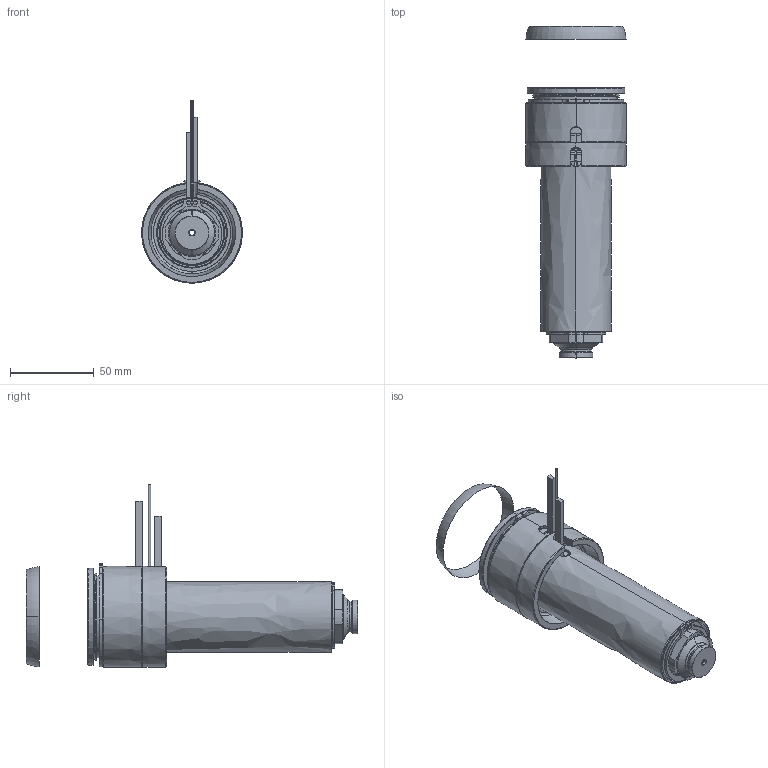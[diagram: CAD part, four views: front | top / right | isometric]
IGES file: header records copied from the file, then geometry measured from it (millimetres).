
Start section: SolidWorks IGES file using analytic representation for surfaces
Global section: file name: C:\Documents and Settings\ws-20\Desktop\TEM\UGER6605-S-A-0 [Øb-3.3 P-0 ØC-16].IGS; native system: SolidWorks 2012; preprocessor: SolidWorks 2012; author: ws-20; date: 120417.123800; units: millimetre
Bounding box: 60 x 197.77 x 108.65 mm (x, y, z)
Surface area: 85426.9 mm2 (no closed solid volume)
Topology: 0 solids, 0 shells, 164 faces, 3294 edges, 3294 vertices
Faces by surface type: revolution 102, bspline 62
